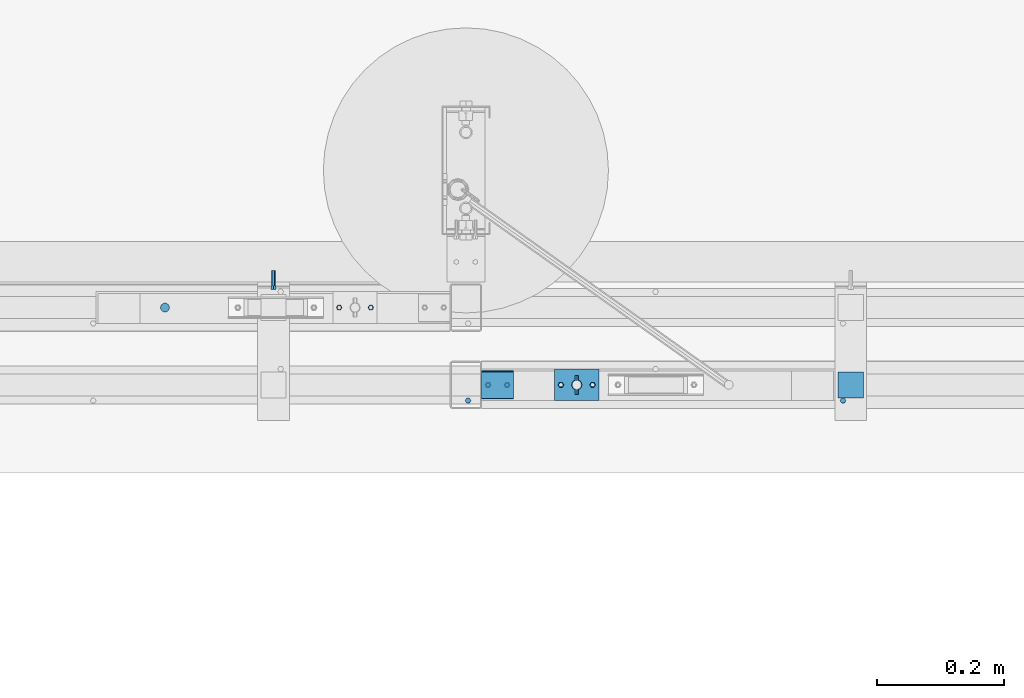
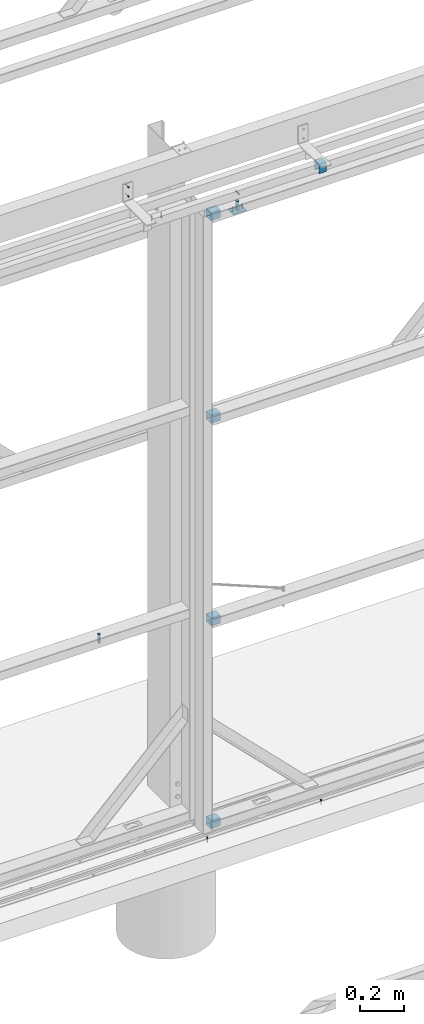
# One storey, part 38 of 91: 12 mechanical fasteners, 7 discrete accessories, 8 elements without a shape of their own.
"""IFC2X3 building model written with IfcOpenShell, lengths in millimetres."""

from ifc_helpers import new_model, si_unit, frame, origin_with_axes, origin_2d_with_axis, place, context, subcontext, project, spatial, polyline, hollow_rectangle, circle, c_section, outline, extrude, source, transform, mapped, material, type_object, element, aggregate, save


model = new_model("IFC2X3")

# Units and contexts
model_context = context("Model", 3, precision=1e-05, world=origin_with_axes())
body_context = subcontext(model_context, "Body", "Model", "MODEL_VIEW")
ifc_project = project(units=[si_unit("LENGTHUNIT", "METRE", prefix="MILLI"), si_unit("AREAUNIT", "SQUARE_METRE"), si_unit("VOLUMEUNIT", "CUBIC_METRE"), si_unit("MASSUNIT", "GRAM", prefix="KILO"), si_unit("TIMEUNIT", "SECOND"), si_unit("PLANEANGLEUNIT", "RADIAN"), si_unit("SOLIDANGLEUNIT", "STERADIAN"), si_unit("THERMODYNAMICTEMPERATUREUNIT", "DEGREE_CELSIUS"), si_unit("LUMINOUSINTENSITYUNIT", "LUMEN")], contexts=[model_context])

# Site, building, storey
site_placement = place(None, origin_with_axes())
site = spatial("IfcSite", under=ifc_project, at=site_placement, Name="Undefined", CompositionType="ELEMENT")
building_placement = place(site_placement, origin_with_axes())
building = spatial("IfcBuilding", under=site, at=building_placement, Name="Undefined", CompositionType="ELEMENT")
storey_placement = place(building_placement, origin_with_axes())
storey = spatial("IfcBuildingStorey", under=building, at=storey_placement, Name="Undefined", CompositionType="ELEMENT", Elevation=0.0)

# Assembly, discrete accessory
assembly_1_placement = place(storey_placement, origin_with_axes())
assembly_1 = element("IfcElementAssembly", 1, at=assembly_1_placement, inside=storey, Name="ROD", AssemblyPlace="NOTDEFINED", PredefinedType="RIGID_FRAME")
ifc_material_1 = material(Name="STEEL/250")
discrete_accessory_type_1 = type_object("IfcDiscreteAccessoryType", Name="PLATE")
discrete_accessory_1_placement = place(assembly_1_placement, frame((-113618.34, 87615.15, 3324.5), z_axis=(0.0, 0.0, 1.0), x_axis=(0.0, -1.0, 0.0)))
discrete_accessory_1 = element("IfcDiscreteAccessory", 2, at=discrete_accessory_1_placement, type_object=discrete_accessory_type_1, material=ifc_material_1, Name="PLATE", ObjectType="PLT3*50", context=body_context, shape_type="SweptSolid", body=[
    extrude(outline(polyline([(0.0, 0.0), (50.0, 0.0), (50.0, 70.0), (0.0, 70.0), (0.0, 0.0)])), frame((0.0, 0.0, -1.5), z_axis=(0.0, 0.0, 1.0), x_axis=(1.0, 0.0, 0.0)), (0.0, 0.0, 1.0), 3.0),
])

# Assembly, mechanical fastener
assembly_2_placement = place(storey_placement, origin_with_axes())
assembly_2 = element("IfcElementAssembly", 3, at=assembly_2_placement, inside=storey, Name="SLIDING DOOR", AssemblyPlace="NOTDEFINED", PredefinedType="RIGID_FRAME")
ifc_material_2 = material(Name="8.8S")
discrete_accessory_type_2 = type_object("IfcDiscreteAccessoryType", Name="Bolt assembly")
shared_shape_1 = source(origin_with_axes(), body_context, "Body", "SweptSolid", [
    extrude(circle(Radius=7.0, at=origin_2d_with_axis()), frame((0.0, 0.0033333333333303, 0.0), z_axis=(0.0, 1.0, 0.0), x_axis=(1.0, 0.0, 0.0)), (0.0, 0.0, 1.0), 50.1),
])
mechanical_fastener_1_placement = place(assembly_2_placement, frame((-114233.343767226, 87712.15, 1147.34), z_axis=(1.0, 0.0, 0.0), x_axis=(0.0, -1.0, 0.0)))
mechanical_fastener_1 = element("IfcMechanicalFastener", 4, at=mechanical_fastener_1_placement, type_object=discrete_accessory_type_2, material=ifc_material_2, Name="Bolt assembly", NominalDiameter=12.0, NominalLength=49.9966659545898, context=body_context, shape_type="MappedRepresentation", body=[
    mapped(shared_shape_1, transform((0.0, 0.0, 0.0))),
])
aggregate(assembly_2, [mechanical_fastener_1])

# Assembly, mechanical fasteners
assembly_3_placement = place(storey_placement, origin_with_axes())
assembly_3 = element("IfcElementAssembly", 5, at=assembly_3_placement, inside=storey, Name="SLIDING DOOR", AssemblyPlace="NOTDEFINED", PredefinedType="RIGID_FRAME")
ifc_material_3 = material(Name="TEK_11TPIM")
shared_shape_2 = source(origin_with_axes(), body_context, "Body", "SweptSolid", [
    extrude(circle(Radius=3.0, at=origin_2d_with_axis()), frame((0.0, 0.0, 0.0), z_axis=(0.0, 1.0, 0.0), x_axis=(1.0, 0.0, 0.0)), (0.0, 0.0, 1.0), 2.1),
    extrude(outline(polyline([(4.61880215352, 0.0), (2.30940107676, 4.00000000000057), (-2.30940107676, 4.00000000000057), (-4.61880215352, 0.0), (-2.30940107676, -4.00000000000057), (2.30940107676, -4.00000000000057), (4.61880215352, 0.0)])), frame((0.0, -5.0, 0.0), z_axis=(0.0, 1.0, 0.0), x_axis=(1.0, 0.0, 0.0)), (0.0, 0.0, 1.0), 5.0),
    extrude(circle(Radius=3.0, at=origin_2d_with_axis()), frame((0.0, 0.0, 0.0), z_axis=(0.0, 1.0, 0.0), x_axis=(1.0, 0.0, 0.0)), (0.0, 0.0, 1.0), 25.0),
    extrude(circle(Radius=3.0, at=origin_2d_with_axis()), frame((0.0, 2.00000000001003, 0.0), z_axis=(0.0, 1.0, 0.0), x_axis=(1.0, 0.0, 0.0)), (0.0, 0.0, 1.0), 0.1),
    extrude(outline(polyline([(3.46410161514, 0.0), (1.73205080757, 3.00000000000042), (-1.73205080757, 3.00000000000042), (-3.46410161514, 0.0), (-1.73205080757, -3.00000000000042), (1.73205080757, -3.00000000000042), (3.46410161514, 0.0)])), frame((0.0, 2.10000000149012, 0.0), z_axis=(0.0, 1.0, 0.0), x_axis=(1.0, 0.0, 0.0)), (0.0, 0.0, 1.0), 0.1),
])
mechanical_fastener_2_placement = place(assembly_3_placement, frame((-113558.34, 87590.15, 3326.0), z_axis=(0.0, 1.0, 0.0), x_axis=(-1.0, 0.0, 0.0)))
mechanical_fastener_2 = element("IfcMechanicalFastener", 6, at=mechanical_fastener_2_placement, type_object=discrete_accessory_type_2, material=ifc_material_3, Name="Bolt assembly", NominalDiameter=6.0, NominalLength=25.0, context=body_context, shape_type="MappedRepresentation", body=[
    mapped(shared_shape_2, transform((0.0, 0.0, 0.0))),
])
mechanical_fastener_3_placement = place(assembly_3_placement, frame((-113608.34, 87590.15, 3326.0), z_axis=(0.0, -1.0, 0.0), x_axis=(1.0, 0.0, 0.0)))
mechanical_fastener_3 = element("IfcMechanicalFastener", 7, at=mechanical_fastener_3_placement, type_object=discrete_accessory_type_2, material=ifc_material_3, Name="Bolt assembly", NominalDiameter=6.0, NominalLength=25.0, context=body_context, shape_type="MappedRepresentation", body=[
    mapped(shared_shape_2, transform((0.0, 0.0, 0.0))),
])

assembly_4_placement = place(storey_placement, origin_with_axes())
assembly_4 = element("IfcElementAssembly", 8, at=assembly_4_placement, inside=storey, Name="SLIDING DOOR", AssemblyPlace="NOTDEFINED", PredefinedType="RIGID_FRAME")
mechanical_fastener_4_placement = place(assembly_4_placement, frame((-113908.34, 87712.15, 3326.0), z_axis=(0.0, 1.0, 0.0), x_axis=(-1.0, 0.0, 0.0)))
mechanical_fastener_4 = element("IfcMechanicalFastener", 9, at=mechanical_fastener_4_placement, type_object=discrete_accessory_type_2, material=ifc_material_3, Name="Bolt assembly", NominalDiameter=6.0, NominalLength=25.0, context=body_context, shape_type="MappedRepresentation", body=[
    mapped(shared_shape_2, transform((0.0, 0.0, 0.0))),
])
mechanical_fastener_5_placement = place(assembly_4_placement, frame((-113958.34, 87712.15, 3326.0), z_axis=(0.0, -1.0, 0.0), x_axis=(1.0, 0.0, 0.0)))
mechanical_fastener_5 = element("IfcMechanicalFastener", 10, at=mechanical_fastener_5_placement, type_object=discrete_accessory_type_2, material=ifc_material_3, Name="Bolt assembly", NominalDiameter=6.0, NominalLength=25.0, context=body_context, shape_type="MappedRepresentation", body=[
    mapped(shared_shape_2, transform((0.0, 0.0, 0.0))),
])
aggregate(assembly_4, [mechanical_fastener_4, mechanical_fastener_5])

# Mechanical fastener
shared_shape_3 = source(origin_with_axes(), body_context, "Body", "SweptSolid", [
    extrude(circle(Radius=8.0, at=origin_2d_with_axis()), frame((0.0, 0.0, 0.0), z_axis=(0.0, 1.0, 0.0), x_axis=(1.0, 0.0, 0.0)), (0.0, 0.0, 1.0), 50.1),
])
mechanical_fastener_6_placement = place(assembly_3_placement, frame((-113583.34, 87590.15, 3326.0), z_axis=(0.0, -1.0, 0.0), x_axis=(1.0, 0.0, 0.0)))
mechanical_fastener_6 = element("IfcMechanicalFastener", 11, at=mechanical_fastener_6_placement, type_object=discrete_accessory_type_2, material=ifc_material_2, Name="Bolt assembly", NominalDiameter=10.0, NominalLength=50.0, context=body_context, shape_type="MappedRepresentation", body=[
    mapped(shared_shape_3, transform((0.0, 0.0, 0.0))),
])

aggregate(assembly_3, [mechanical_fastener_2, mechanical_fastener_3, mechanical_fastener_6])

# Discrete accessory
discrete_accessory_type_3 = type_object("IfcDiscreteAccessoryType", Name="SPRING PIN")
discrete_accessory_2_placement = place(assembly_1_placement, frame((-113583.34, 87575.15, 3421.0), z_axis=(1.0, 0.0, 0.0), x_axis=(0.0, 1.0, 0.0)))
discrete_accessory_2 = element("IfcDiscreteAccessory", 12, at=discrete_accessory_2_placement, type_object=discrete_accessory_type_3, material=ifc_material_1, Name="SPRING PIN", ObjectType="D6", context=body_context, shape_type="SweptSolid", body=[
    extrude(circle(Radius=3.0, at=origin_2d_with_axis()), frame((30.0, 0.0, 0.0), z_axis=(-1.0, 0.0, 0.0), x_axis=(0.0, -1.0, 0.0)), (0.0, 0.0, 1.0), 30.0),
])

aggregate(assembly_1, [discrete_accessory_2, discrete_accessory_1])

# Assembly, mechanical fastener
assembly_5_placement = place(storey_placement, origin_with_axes())
assembly_5 = element("IfcElementAssembly", 13, at=assembly_5_placement, inside=storey, Name="DOOR BRACKET", AssemblyPlace="NOTDEFINED", PredefinedType="RIGID_FRAME")
shared_shape_4 = source(origin_with_axes(), body_context, "Body", "SweptSolid", [
    extrude(circle(Radius=3.0, at=origin_2d_with_axis()), frame((0.0, -6.0, 0.0), z_axis=(0.0, 1.0, 0.0), x_axis=(1.0, 0.0, 0.0)), (0.0, 0.0, 1.0), 6.1),
    extrude(outline(polyline([(4.61880215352, 0.0), (2.30940107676, 4.00000000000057), (-2.30940107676, 4.00000000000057), (-4.61880215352, 0.0), (-2.30940107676, -4.00000000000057), (2.30940107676, -4.00000000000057), (4.61880215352, 0.0)])), frame((0.0, -11.1000000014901, 0.0), z_axis=(0.0, 1.0, 0.0), x_axis=(1.0, 0.0, 0.0)), (0.0, 0.0, 1.0), 5.0),
    extrude(circle(Radius=3.0, at=origin_2d_with_axis()), frame((0.0, -6.10000000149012, 0.0), z_axis=(0.0, 1.0, 0.0), x_axis=(1.0, 0.0, 0.0)), (0.0, 0.0, 1.0), 25.0),
    extrude(circle(Radius=3.0, at=origin_2d_with_axis()), frame((0.0, -6.10000000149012, 0.0), z_axis=(0.0, 1.0, 0.0), x_axis=(1.0, 0.0, 0.0)), (0.0, 0.0, 1.0), 0.1),
    extrude(circle(Radius=3.0, at=origin_2d_with_axis()), frame((0.0, 0.0, 0.0), z_axis=(0.0, 1.0, 0.0), x_axis=(1.0, 0.0, 0.0)), (0.0, 0.0, 1.0), 0.1),
    extrude(outline(polyline([(3.46410161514, 0.0), (1.73205080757, 3.00000000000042), (-1.73205080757, 3.00000000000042), (-3.46410161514, 0.0), (-1.73205080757, -3.00000000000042), (1.73205080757, -3.00000000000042), (3.46410161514, 0.0)])), frame((0.0, 0.1, 0.0), z_axis=(0.0, 1.0, 0.0), x_axis=(1.0, 0.0, 0.0)), (0.0, 0.0, 1.0), 0.1),
])
mechanical_fastener_7_placement = place(assembly_5_placement, frame((-114062.09, 87752.15, 3524.0), z_axis=(1.0, 0.0, 0.0), x_axis=(0.0, 0.0, -1.0)))
mechanical_fastener_7 = element("IfcMechanicalFastener", 14, at=mechanical_fastener_7_placement, type_object=discrete_accessory_type_2, material=ifc_material_3, Name="Bolt assembly", NominalDiameter=6.0, NominalLength=25.0, context=body_context, shape_type="MappedRepresentation", body=[
    mapped(shared_shape_4, transform((0.0, 0.0, 0.0))),
    mapped(shared_shape_4, transform((50.0, 0.0, 0.0))),
])
aggregate(assembly_5, [mechanical_fastener_7])

# Assembly, mechanical fasteners
assembly_6_placement = place(storey_placement, origin_with_axes())
assembly_6 = element("IfcElementAssembly", 15, at=assembly_6_placement, inside=storey, Name="SLIDING DOOR", AssemblyPlace="NOTDEFINED", PredefinedType="RIGID_FRAME")
shared_shape_5 = source(origin_with_axes(), body_context, "Body", "SweptSolid", [
    extrude(circle(Radius=3.0, at=origin_2d_with_axis()), frame((0.0, 0.0966666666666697, 0.0), z_axis=(0.0, 1.0, 0.0), x_axis=(1.0, 0.0, 0.0)), (0.0, 0.0, 1.0), 2.0),
    extrude(circle(Radius=3.0, at=origin_2d_with_axis()), frame((0.0, 2.4, 0.0), z_axis=(0.0, 1.0, 0.0), x_axis=(1.0, 0.0, 0.0)), (0.0, 0.0, 1.0), 1.7),
    extrude(outline(polyline([(4.61880215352, 0.0), (2.30940107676, 4.00000000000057), (-2.30940107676, 4.00000000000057), (-4.61880215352, 0.0), (-2.30940107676, -4.00000000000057), (2.30940107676, -4.00000000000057), (4.61880215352, 0.0)])), frame((0.0, -5.00333333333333, 0.0), z_axis=(0.0, 1.0, 0.0), x_axis=(1.0, 0.0, 0.0)), (0.0, 0.0, 1.0), 5.0),
    extrude(circle(Radius=3.0, at=origin_2d_with_axis()), frame((0.0, -0.0033333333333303, 0.0), z_axis=(0.0, 1.0, 0.0), x_axis=(1.0, 0.0, 0.0)), (0.0, 0.0, 1.0), 25.0),
    extrude(circle(Radius=3.0, at=origin_2d_with_axis()), frame((0.0, 4.10000002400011, 0.0), z_axis=(0.0, 1.0, 0.0), x_axis=(1.0, 0.0, 0.0)), (0.0, 0.0, 1.0), 0.1),
    extrude(outline(polyline([(3.46410161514, 0.0), (1.73205080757, 3.00000000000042), (-1.73205080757, 3.00000000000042), (-3.46410161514, 0.0), (-1.73205080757, -3.00000000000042), (1.73205080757, -3.00000000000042), (3.46410161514, 0.0)])), frame((0.0, 4.20000002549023, 0.0), z_axis=(0.0, 1.0, 0.0), x_axis=(1.0, 0.0, 0.0)), (0.0, 0.0, 1.0), 0.1),
])
mechanical_fastener_8_placement = place(assembly_6_placement, frame((-113723.34, 87590.15, 1097.34), z_axis=(0.0, -1.0, 0.0), x_axis=(1.0, 0.0, 0.0)))
mechanical_fastener_8 = element("IfcMechanicalFastener", 16, at=mechanical_fastener_8_placement, type_object=discrete_accessory_type_2, material=ifc_material_3, Name="Bolt assembly", NominalDiameter=6.0, NominalLength=25.0, context=body_context, shape_type="MappedRepresentation", body=[
    mapped(shared_shape_5, transform((0.0, 0.0, 0.0))),
    mapped(shared_shape_5, transform((30.0, 0.0, 0.0))),
])
ifc_material_4 = material(Name="TEK_16TPIM")
shared_shape_6 = source(origin_with_axes(), body_context, "Body", "SweptSolid", [
    extrude(circle(Radius=3.5, at=origin_2d_with_axis()), frame((0.0, 0.1, 0.0), z_axis=(0.0, 1.0, 0.0), x_axis=(1.0, 0.0, 0.0)), (0.0, 0.0, 1.0), 2.0),
    extrude(circle(Radius=3.5, at=origin_2d_with_axis()), frame((0.0, 2.4, 0.0), z_axis=(0.0, 1.0, 0.0), x_axis=(1.0, 0.0, 0.0)), (0.0, 0.0, 1.0), 1.7),
    extrude(outline(polyline([(4.04145188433, 0.0), (2.020725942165, 3.5000000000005), (-2.020725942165, 3.5000000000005), (-4.04145188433, 0.0), (-2.020725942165, -3.5000000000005), (2.020725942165, -3.5000000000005), (4.04145188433, 0.0)])), frame((0.0, -5.0, 0.0), z_axis=(0.0, 1.0, 0.0), x_axis=(1.0, 0.0, 0.0)), (0.0, 0.0, 1.0), 5.0),
    extrude(circle(Radius=2.5, at=origin_2d_with_axis()), frame((0.0, 0.0, 0.0), z_axis=(0.0, 1.0, 0.0), x_axis=(1.0, 0.0, 0.0)), (0.0, 0.0, 1.0), 25.0),
    extrude(circle(Radius=2.5, at=origin_2d_with_axis()), frame((0.0, 4.10000002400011, 0.0), z_axis=(0.0, 1.0, 0.0), x_axis=(1.0, 0.0, 0.0)), (0.0, 0.0, 1.0), 0.1),
    extrude(outline(polyline([(2.88675134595, 0.0), (1.443375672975, 2.50000000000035), (-1.443375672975, 2.50000000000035), (-2.88675134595, 0.0), (-1.443375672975, -2.50000000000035), (1.443375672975, -2.50000000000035), (2.88675134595, 0.0)])), frame((0.0, 4.20000002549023, 0.0), z_axis=(0.0, 1.0, 0.0), x_axis=(1.0, 0.0, 0.0)), (0.0, 0.0, 1.0), 0.1),
])
mechanical_fastener_9_placement = place(assembly_6_placement, frame((-113723.34, 87590.15, -17.0), z_axis=(0.0, -1.0, 0.0), x_axis=(1.0, 0.0, 0.0)))
mechanical_fastener_9 = element("IfcMechanicalFastener", 17, at=mechanical_fastener_9_placement, type_object=discrete_accessory_type_2, material=ifc_material_4, Name="Bolt assembly", NominalDiameter=5.0, NominalLength=25.0, context=body_context, shape_type="MappedRepresentation", body=[
    mapped(shared_shape_6, transform((0.0, 0.0, 0.0))),
    mapped(shared_shape_6, transform((30.0, 0.0, 0.0))),
])
shared_shape_7 = source(origin_with_axes(), body_context, "Body", "SweptSolid", [
    extrude(circle(Radius=3.0, at=origin_2d_with_axis()), frame((0.0, 0.1, 0.0), z_axis=(0.0, 1.0, 0.0), x_axis=(1.0, 0.0, 0.0)), (0.0, 0.0, 1.0), 2.0),
    extrude(circle(Radius=3.0, at=origin_2d_with_axis()), frame((0.0, 2.4, 0.0), z_axis=(0.0, 1.0, 0.0), x_axis=(1.0, 0.0, 0.0)), (0.0, 0.0, 1.0), 1.7),
    extrude(outline(polyline([(4.61880215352, 0.0), (2.30940107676, 4.00000000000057), (-2.30940107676, 4.00000000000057), (-4.61880215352, 0.0), (-2.30940107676, -4.00000000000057), (2.30940107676, -4.00000000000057), (4.61880215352, 0.0)])), frame((0.0, -5.0, 0.0), z_axis=(0.0, 1.0, 0.0), x_axis=(1.0, 0.0, 0.0)), (0.0, 0.0, 1.0), 5.0),
    extrude(circle(Radius=3.0, at=origin_2d_with_axis()), frame((0.0, 0.0, 0.0), z_axis=(0.0, 1.0, 0.0), x_axis=(1.0, 0.0, 0.0)), (0.0, 0.0, 1.0), 25.0),
    extrude(circle(Radius=3.0, at=origin_2d_with_axis()), frame((0.0, 4.10000002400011, 0.0), z_axis=(0.0, 1.0, 0.0), x_axis=(1.0, 0.0, 0.0)), (0.0, 0.0, 1.0), 0.1),
    extrude(outline(polyline([(3.46410161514, 0.0), (1.73205080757, 3.00000000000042), (-1.73205080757, 3.00000000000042), (-3.46410161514, 0.0), (-1.73205080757, -3.00000000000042), (1.73205080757, -3.00000000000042), (3.46410161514, 0.0)])), frame((0.0, 4.20000002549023, 0.0), z_axis=(0.0, 1.0, 0.0), x_axis=(1.0, 0.0, 0.0)), (0.0, 0.0, 1.0), 0.1),
])
mechanical_fastener_10_placement = place(assembly_6_placement, frame((-113723.34, 87590.15, 3326.0), z_axis=(0.0, -1.0, 0.0), x_axis=(1.0, 0.0, 0.0)))
mechanical_fastener_10 = element("IfcMechanicalFastener", 18, at=mechanical_fastener_10_placement, type_object=discrete_accessory_type_2, material=ifc_material_3, Name="Bolt assembly", NominalDiameter=6.0, NominalLength=25.0, context=body_context, shape_type="MappedRepresentation", body=[
    mapped(shared_shape_7, transform((0.0, 0.0, 0.0))),
    mapped(shared_shape_7, transform((30.0, 0.0, 0.0))),
])

assembly_7_placement = place(storey_placement, origin_with_axes())
assembly_7 = element("IfcElementAssembly", 19, at=assembly_7_placement, inside=storey, Name="DOOR TRACK", AssemblyPlace="NOTDEFINED", PredefinedType="RIGID_FRAME")
ifc_material_5 = material(Name="TEK_10TPII")
shared_shape_8 = source(origin_with_axes(), body_context, "Body", "SweptSolid", [
    extrude(circle(Radius=4.07999992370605, at=origin_2d_with_axis()), frame((0.0, 0.0, 0.0), z_axis=(0.0, 1.0, 0.0), x_axis=(1.0, 0.0, 0.0)), (0.0, 0.0, 1.0), 3.1),
    extrude(outline(polyline([(4.61880215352, 0.0), (2.30940107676, 4.00000000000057), (-2.30940107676, 4.00000000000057), (-4.61880215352, 0.0), (-2.30940107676, -4.00000000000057), (2.30940107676, -4.00000000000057), (4.61880215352, 0.0)])), frame((0.0, -5.0, 0.0), z_axis=(0.0, 1.0, 0.0), x_axis=(1.0, 0.0, 0.0)), (0.0, 0.0, 1.0), 5.0),
    extrude(circle(Radius=3.07999992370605, at=origin_2d_with_axis()), frame((0.0, 0.0, 0.0), z_axis=(0.0, 1.0, 0.0), x_axis=(1.0, 0.0, 0.0)), (0.0, 0.0, 1.0), 25.0),
    extrude(circle(Radius=3.0, at=origin_2d_with_axis()), frame((0.0, 3.0, 0.0), z_axis=(0.0, 1.0, 0.0), x_axis=(1.0, 0.0, 0.0)), (0.0, 0.0, 1.0), 0.1),
    extrude(outline(polyline([(3.46410161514, 0.0), (1.73205080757, 3.00000000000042), (-1.73205080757, 3.00000000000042), (-3.46410161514, 0.0), (-1.73205080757, -3.00000000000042), (1.73205080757, -3.00000000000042), (3.46410161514, 0.0)])), frame((0.0, 3.10000000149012, 0.0), z_axis=(0.0, 1.0, 0.0), x_axis=(1.0, 0.0, 0.0)), (0.0, 0.0, 1.0), 0.1),
])
mechanical_fastener_11_placement = place(assembly_7_placement, frame((-113163.04, 87565.151953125, -54.0), z_axis=(0.0, 1.0, 0.0), x_axis=(1.0, 0.0, 0.0)))
mechanical_fastener_11 = element("IfcMechanicalFastener", 20, at=mechanical_fastener_11_placement, type_object=discrete_accessory_type_2, material=ifc_material_5, Name="Bolt assembly", NominalDiameter=6.15999984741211, NominalLength=25.0, context=body_context, shape_type="MappedRepresentation", body=[
    mapped(shared_shape_8, transform((0.0, 0.0, 0.0))),
])
mechanical_fastener_12_placement = place(assembly_7_placement, frame((-113754.84, 87565.151953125, -54.0), z_axis=(0.0, 1.0, 0.0), x_axis=(1.0, 0.0, 0.0)))
mechanical_fastener_12 = element("IfcMechanicalFastener", 21, at=mechanical_fastener_12_placement, type_object=discrete_accessory_type_2, material=ifc_material_5, Name="Bolt assembly", NominalDiameter=6.15999984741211, NominalLength=25.0, context=body_context, shape_type="MappedRepresentation", body=[
    mapped(shared_shape_8, transform((0.0, 0.0, 0.0))),
])
aggregate(assembly_7, [mechanical_fastener_11, mechanical_fastener_12])

# Assembly, discrete accessory
assembly_8_placement = place(storey_placement, origin_with_axes())
assembly_8 = element("IfcElementAssembly", 22, at=assembly_8_placement, inside=storey, Name="DOOR BRACKET", AssemblyPlace="NOTDEFINED", PredefinedType="RIGID_FRAME")
discrete_accessory_type_4 = type_object("IfcDiscreteAccessoryType", Name="SLIDING DOOR BRACKET")
discrete_accessory_3_placement = place(assembly_8_placement, frame((-113170.84, 87590.15, 3417.5), z_axis=(0.0, -1.0, 0.0), x_axis=(1.0, 0.0, 0.0)))
discrete_accessory_3 = element("IfcDiscreteAccessory", 23, at=discrete_accessory_3_placement, type_object=discrete_accessory_type_4, material=ifc_material_1, Name="SLIDING DOOR BRACKET", ObjectType="CC41-1.5-7-53", context=body_context, shape_type="SweptSolid", body=[
    extrude(c_section(Depth=41.0, Width=53.0, WallThickness=1.5, Girth=7.0, at=origin_2d_with_axis()), frame((40.0, 0.0, 0.0), z_axis=(-1.0, 0.0, 0.0), x_axis=(0.0, -1.0, 0.0)), (0.0, 0.0, 1.0), 40.0),
])
aggregate(assembly_8, [discrete_accessory_3])

# Discrete accessory
ifc_material_6 = material(Name="STEEL/300")
discrete_accessory_type_5 = type_object("IfcDiscreteAccessoryType", Name="SLIDING DOOR")
discrete_accessory_4_placement = place(assembly_6_placement, frame((-113683.34, 87590.15, 3351.0), z_axis=(0.0, -1.0, 0.0), x_axis=(-1.0, 0.0, 0.0)))
discrete_accessory_4 = element("IfcDiscreteAccessory", 24, at=discrete_accessory_4_placement, type_object=discrete_accessory_type_5, material=ifc_material_6, Name="SLIDING DOOR", ObjectType="SHS:45X45X1.6", context=body_context, shape_type="SweptSolid", body=[
    extrude(hollow_rectangle(XDim=45.0, YDim=45.0, WallThickness=1.600000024, InnerFilletRadius=1.600000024, OuterFilletRadius=3.200000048, at=origin_2d_with_axis()), frame((50.0, 0.0, 0.0), z_axis=(-1.0, 0.0, 0.0), x_axis=(0.0, -1.0, 0.0)), (0.0, 0.0, 1.0), 50.0),
])

discrete_accessory_5_placement = place(assembly_6_placement, frame((-113683.34, 87590.15, 2236.66), z_axis=(0.0, -1.0, 0.0), x_axis=(-1.0, 0.0, 0.0)))
discrete_accessory_5 = element("IfcDiscreteAccessory", 25, at=discrete_accessory_5_placement, type_object=discrete_accessory_type_5, material=ifc_material_6, Name="SLIDING DOOR", ObjectType="SHS:45X45X1.6", context=body_context, shape_type="SweptSolid", body=[
    extrude(hollow_rectangle(XDim=45.0, YDim=45.0, WallThickness=1.600000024, InnerFilletRadius=1.600000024, OuterFilletRadius=3.200000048, at=origin_2d_with_axis()), frame((50.0, 0.0, 0.0), z_axis=(-1.0, 0.0, 0.0), x_axis=(0.0, -1.0, 0.0)), (0.0, 0.0, 1.0), 50.0),
])

discrete_accessory_6_placement = place(assembly_6_placement, frame((-113683.34, 87590.15, 1122.34), z_axis=(0.0, -1.0, 0.0), x_axis=(-1.0, 0.0, 0.0)))
discrete_accessory_6 = element("IfcDiscreteAccessory", 26, at=discrete_accessory_6_placement, type_object=discrete_accessory_type_5, material=ifc_material_6, Name="SLIDING DOOR", ObjectType="SHS:45X45X1.6", context=body_context, shape_type="SweptSolid", body=[
    extrude(hollow_rectangle(XDim=45.0, YDim=45.0, WallThickness=1.600000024, InnerFilletRadius=1.600000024, OuterFilletRadius=3.200000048, at=origin_2d_with_axis()), frame((50.0, 0.0, 0.0), z_axis=(-1.0, 0.0, 0.0), x_axis=(0.0, -1.0, 0.0)), (0.0, 0.0, 1.0), 50.0),
])

discrete_accessory_7_placement = place(assembly_6_placement, frame((-113683.34, 87590.15, 8.0), z_axis=(0.0, -1.0, 0.0), x_axis=(-1.0, 0.0, 0.0)))
discrete_accessory_7 = element("IfcDiscreteAccessory", 27, at=discrete_accessory_7_placement, type_object=discrete_accessory_type_5, material=ifc_material_6, Name="SLIDING DOOR", ObjectType="SHS:45X45X1.6", context=body_context, shape_type="SweptSolid", body=[
    extrude(hollow_rectangle(XDim=45.0, YDim=45.0, WallThickness=1.600000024, InnerFilletRadius=1.600000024, OuterFilletRadius=3.200000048, at=origin_2d_with_axis()), frame((50.0, 0.0, 0.0), z_axis=(-1.0, 0.0, 0.0), x_axis=(0.0, -1.0, 0.0)), (0.0, 0.0, 1.0), 50.0),
])

aggregate(assembly_6, [mechanical_fastener_8, mechanical_fastener_9, mechanical_fastener_10, discrete_accessory_4, discrete_accessory_5, discrete_accessory_6, discrete_accessory_7])

save(model, "model.ifc")
